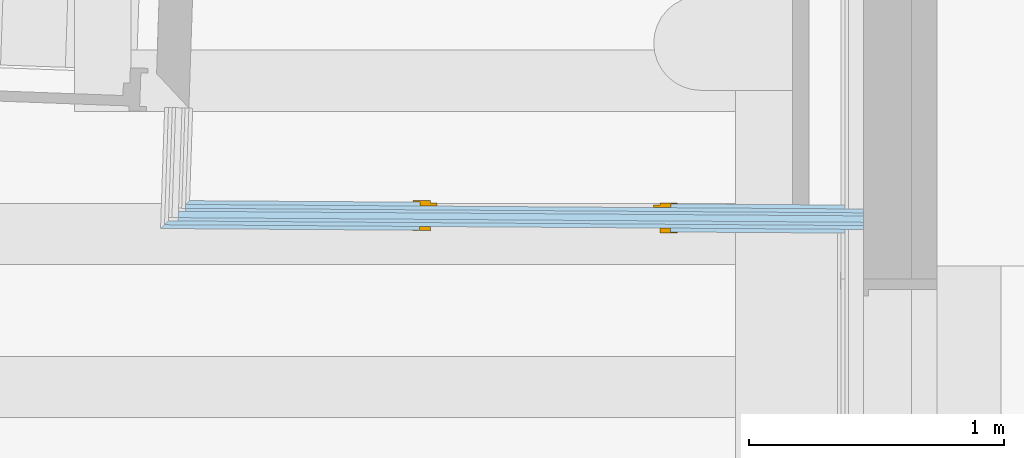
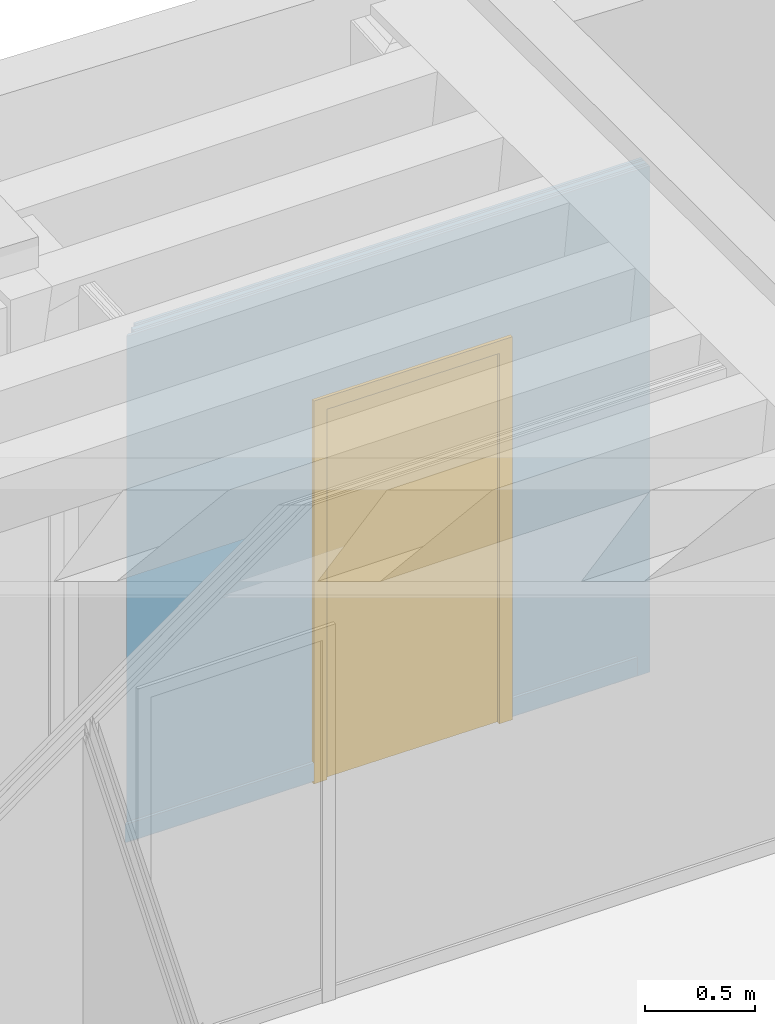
# One storey, part 26 of 108: 1 door, 1 opening, 1 element without a shape of its own, plus 7 elements that do not belong to this part.
"""IFC2X3 building model written with IfcOpenShell, lengths in metres."""

from ifc_helpers import new_model, entity, si_unit, converted_unit, derived_unit, money_unit, direction, frame, origin_with_axes, place, context, subcontext, project, spatial, polyline, outline, extrude, faceted_brep, material, type_object, element, fill, aggregate, save


model = new_model("IFC2X3")

# Units and contexts
model_context = context("Model", 3, precision=1e-05, world=origin_with_axes(), true_north=direction((0.0, 1.0)))
body_context = subcontext(model_context, "Body", "Model", "MODEL_VIEW", scale=1.0)
ifc_project = project(units=[si_unit("LENGTHUNIT", "METRE"), si_unit("AREAUNIT", "SQUARE_METRE"), si_unit("VOLUMEUNIT", "CUBIC_METRE"), si_unit("ABSORBEDDOSEUNIT", "GRAY"), si_unit("AMOUNTOFSUBSTANCEUNIT", "MOLE"), si_unit("DOSEEQUIVALENTUNIT", "SIEVERT"), si_unit("ELECTRICCAPACITANCEUNIT", "FARAD"), si_unit("ELECTRICCHARGEUNIT", "COULOMB"), si_unit("ELECTRICCONDUCTANCEUNIT", "SIEMENS"), si_unit("ELECTRICCURRENTUNIT", "AMPERE"), si_unit("ELECTRICRESISTANCEUNIT", "OHM"), si_unit("ELECTRICVOLTAGEUNIT", "VOLT"), si_unit("ENERGYUNIT", "JOULE"), si_unit("FORCEUNIT", "NEWTON"), si_unit("FREQUENCYUNIT", "HERTZ"), si_unit("ILLUMINANCEUNIT", "LUX"), si_unit("INDUCTANCEUNIT", "HENRY"), si_unit("LUMINOUSFLUXUNIT", "LUMEN"), si_unit("LUMINOUSINTENSITYUNIT", "CANDELA"), si_unit("MAGNETICFLUXDENSITYUNIT", "TESLA"), si_unit("MAGNETICFLUXUNIT", "WEBER"), si_unit("MASSUNIT", "GRAM"), converted_unit("PLANEANGLEUNIT", "degree", entity("IfcReal", 0.0174532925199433), si_unit("PLANEANGLEUNIT", "RADIAN"), dimensions=[0, 0, 0, 0, 0, 0, 0]), si_unit("POWERUNIT", "WATT"), si_unit("PRESSUREUNIT", "PASCAL"), si_unit("RADIOACTIVITYUNIT", "BECQUEREL"), si_unit("SOLIDANGLEUNIT", "STERADIAN"), si_unit("THERMODYNAMICTEMPERATUREUNIT", "KELVIN"), si_unit("TIMEUNIT", "SECOND"), derived_unit("ACCELERATIONUNIT", [(si_unit("LENGTHUNIT", "METRE"), 1), (si_unit("TIMEUNIT", "SECOND"), -2)]), derived_unit("ANGULARVELOCITYUNIT", [(converted_unit("PLANEANGLEUNIT", "degree", entity("IfcReal", 0.0174532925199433), si_unit("PLANEANGLEUNIT", "RADIAN"), dimensions=[0, 0, 0, 0, 0, 0, 0]), 1), (si_unit("TIMEUNIT", "SECOND"), -1)]), derived_unit("CURVATUREUNIT", [(converted_unit("PLANEANGLEUNIT", "degree", entity("IfcReal", 0.0174532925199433), si_unit("PLANEANGLEUNIT", "RADIAN"), dimensions=[0, 0, 0, 0, 0, 0, 0]), 1), (si_unit("LENGTHUNIT", "METRE"), -1)]), derived_unit("DYNAMICVISCOSITYUNIT", [(si_unit("PRESSUREUNIT", "PASCAL"), 1), (si_unit("TIMEUNIT", "SECOND"), 1)]), derived_unit("HEATFLUXDENSITYUNIT", [(si_unit("POWERUNIT", "WATT"), 1), (si_unit("LENGTHUNIT", "METRE"), -2)]), derived_unit("HEATINGVALUEUNIT", [(si_unit("ENERGYUNIT", "JOULE"), 1), (si_unit("MASSUNIT", "GRAM"), -1)]), derived_unit("INTEGERCOUNTRATEUNIT", [(si_unit("TIMEUNIT", "SECOND"), -1)]), derived_unit("IONCONCENTRATIONUNIT", [(si_unit("MASSUNIT", "GRAM"), 1), (si_unit("VOLUMEUNIT", "CUBIC_METRE"), -1)]), derived_unit("ISOTHERMALMOISTURECAPACITYUNIT", [(si_unit("VOLUMEUNIT", "CUBIC_METRE"), 1), (si_unit("MASSUNIT", "GRAM"), -1)]), derived_unit("KINEMATICVISCOSITYUNIT", [(si_unit("AREAUNIT", "SQUARE_METRE"), 1), (si_unit("TIMEUNIT", "SECOND"), -1)]), derived_unit("LINEARFORCEUNIT", [(si_unit("FORCEUNIT", "NEWTON"), 1), (si_unit("LENGTHUNIT", "METRE"), -1)]), derived_unit("LINEARMOMENTUNIT", [(si_unit("FORCEUNIT", "NEWTON"), 1), (si_unit("LENGTHUNIT", "METRE"), -1)]), derived_unit("LINEARSTIFFNESSUNIT", [(si_unit("FORCEUNIT", "NEWTON"), 1), (si_unit("LENGTHUNIT", "METRE"), -1)]), derived_unit("LINEARVELOCITYUNIT", [(si_unit("LENGTHUNIT", "METRE"), 1), (si_unit("TIMEUNIT", "SECOND"), -1)]), derived_unit("LUMINOUSINTENSITYDISTRIBUTIONUNIT", [(si_unit("LUMINOUSINTENSITYUNIT", "CANDELA"), 1), (si_unit("LUMINOUSFLUXUNIT", "LUMEN"), -1)]), derived_unit("MASSDENSITYUNIT", [(si_unit("MASSUNIT", "GRAM"), 1), (si_unit("VOLUMEUNIT", "CUBIC_METRE"), -1)]), derived_unit("MASSFLOWRATEUNIT", [(si_unit("MASSUNIT", "GRAM"), 1), (si_unit("TIMEUNIT", "SECOND"), -1)]), derived_unit("MASSPERLENGTHUNIT", [(si_unit("MASSUNIT", "GRAM"), 1), (si_unit("LENGTHUNIT", "METRE"), -1)]), derived_unit("MODULUSOFELASTICITYUNIT", [(si_unit("FORCEUNIT", "NEWTON"), 1), (si_unit("AREAUNIT", "SQUARE_METRE"), -1)]), derived_unit("MODULUSOFLINEARSUBGRADEREACTIONUNIT", [(si_unit("FORCEUNIT", "NEWTON"), 1), (si_unit("LENGTHUNIT", "METRE"), -2)]), derived_unit("MODULUSOFROTATIONALSUBGRADEREACTIONUNIT", [(si_unit("FORCEUNIT", "NEWTON"), 1), (si_unit("LENGTHUNIT", "METRE"), 1)]), derived_unit("MODULUSOFSUBGRADEREACTIONUNIT", [(si_unit("FORCEUNIT", "NEWTON"), 1), (si_unit("VOLUMEUNIT", "CUBIC_METRE"), -1)]), derived_unit("MOISTUREDIFFUSIVITYUNIT", [(si_unit("VOLUMEUNIT", "CUBIC_METRE"), 1), (si_unit("TIMEUNIT", "SECOND"), -1)]), derived_unit("MOLECULARWEIGHTUNIT", [(si_unit("MASSUNIT", "GRAM"), 1), (si_unit("AMOUNTOFSUBSTANCEUNIT", "MOLE"), -1)]), derived_unit("PLANARFORCEUNIT", [(si_unit("FORCEUNIT", "NEWTON"), 1), (si_unit("LENGTHUNIT", "METRE"), -2)]), derived_unit("ROTATIONALFREQUENCYUNIT", [(si_unit("TIMEUNIT", "SECOND"), -1)]), derived_unit("ROTATIONALMASSUNIT", [(si_unit("MASSUNIT", "GRAM"), 1), (si_unit("LENGTHUNIT", "METRE"), 2)]), derived_unit("ROTATIONALSTIFFNESSUNIT", [(si_unit("FORCEUNIT", "NEWTON"), 1), (si_unit("LENGTHUNIT", "METRE"), 1), (converted_unit("PLANEANGLEUNIT", "degree", entity("IfcReal", 0.0174532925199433), si_unit("PLANEANGLEUNIT", "RADIAN"), dimensions=[0, 0, 0, 0, 0, 0, 0]), -1)]), derived_unit("SECTIONAREAINTEGRALUNIT", [(si_unit("LENGTHUNIT", "METRE"), 5)]), derived_unit("SECTIONMODULUSUNIT", [(si_unit("LENGTHUNIT", "METRE"), 3)]), derived_unit("SHEARMODULUSUNIT", [(si_unit("FORCEUNIT", "NEWTON"), 1), (si_unit("AREAUNIT", "SQUARE_METRE"), -1)]), derived_unit("SOUNDPOWERUNIT", [(si_unit("ENERGYUNIT", "JOULE"), 1), (si_unit("TIMEUNIT", "SECOND"), -1)]), derived_unit("SPECIFICHEATCAPACITYUNIT", [(si_unit("FORCEUNIT", "NEWTON"), 1), (si_unit("MASSUNIT", "GRAM"), -1), (si_unit("THERMODYNAMICTEMPERATUREUNIT", "KELVIN"), -1)]), derived_unit("TEMPERATUREGRADIENTUNIT", [(si_unit("THERMODYNAMICTEMPERATUREUNIT", "KELVIN"), 1), (si_unit("LENGTHUNIT", "METRE"), -1)]), derived_unit("THERMALADMITTANCEUNIT", [(si_unit("POWERUNIT", "WATT"), 1), (si_unit("AREAUNIT", "SQUARE_METRE"), -1), (si_unit("THERMODYNAMICTEMPERATUREUNIT", "KELVIN"), -1)]), derived_unit("THERMALCONDUCTANCEUNIT", [(si_unit("POWERUNIT", "WATT"), 1), (si_unit("LENGTHUNIT", "METRE"), -1), (si_unit("THERMODYNAMICTEMPERATUREUNIT", "KELVIN"), -1)]), derived_unit("THERMALEXPANSIONCOEFFICIENTUNIT", [(si_unit("THERMODYNAMICTEMPERATUREUNIT", "KELVIN"), -1)]), derived_unit("THERMALRESISTANCEUNIT", [(si_unit("AREAUNIT", "SQUARE_METRE"), 1), (si_unit("POWERUNIT", "WATT"), -1)]), derived_unit("THERMALTRANSMITTANCEUNIT", [(si_unit("POWERUNIT", "WATT"), 1), (si_unit("AREAUNIT", "SQUARE_METRE"), -1), (si_unit("THERMODYNAMICTEMPERATUREUNIT", "KELVIN"), -1)]), derived_unit("TORQUEUNIT", [(si_unit("FORCEUNIT", "NEWTON"), 1), (si_unit("LENGTHUNIT", "METRE"), 1)]), derived_unit("VAPORPERMEABILITYUNIT", [(si_unit("MASSUNIT", "GRAM"), 1), (si_unit("TIMEUNIT", "SECOND"), -1)]), derived_unit("VOLUMETRICFLOWRATEUNIT", [(si_unit("VOLUMEUNIT", "CUBIC_METRE"), 1), (si_unit("TIMEUNIT", "SECOND"), -1)]), derived_unit("WARPINGCONSTANTUNIT", [(si_unit("LENGTHUNIT", "METRE"), 6)]), derived_unit("WARPINGMOMENTUNIT", [(si_unit("FORCEUNIT", "NEWTON"), 1), (si_unit("LENGTHUNIT", "METRE"), 2)]), money_unit("GBP")], contexts=[model_context])

# Site, building, storey, space
site_placement = place(None, origin_with_axes())
site = spatial("IfcSite", under=ifc_project, at=site_placement, Name="Site", CompositionType="ELEMENT")
building_placement = place(site_placement, origin_with_axes())
building = spatial("IfcBuilding", under=site, at=building_placement, Name="Building01", CompositionType="ELEMENT")
storey_placement = place(building_placement, origin_with_axes())
storey = spatial("IfcBuildingStorey", under=building, at=storey_placement, Name="GF", CompositionType="ELEMENT", Elevation=0.0)
space_placement = place(storey_placement, frame((8.552822, 20.936203, 0.217025), z_axis=(0.0, 0.0, 1.0), x_axis=(-0.99931258, 0.03707243, 0.0)))
space = spatial("IfcSpace", under=storey, at=space_placement, Name="01", CompositionType="ELEMENT", InteriorOrExteriorSpace="NOTDEFINED")

# Door
ifc_material_1 = material(Name="A_BSUK_Doors")
door_style = type_object("IfcDoorStyle", Name="A-Doors-SingleFlush", ConstructionType="USERDEFINED", OperationType="SINGLE_SWING_RIGHT", ParameterTakesPrecedence=False, Sizeable=False)
wall_placement = place(storey_placement, frame((9.154265, 19.280573, 0.148), z_axis=(0.0, 0.0, 1.0), x_axis=(-0.99997749, 0.00671026, 0.0)))
opening_placement = place(wall_placement, frame((0.755168, -0.042, 0.0), z_axis=(0.0, 0.0, 1.0), x_axis=(1.0, 0.0, 0.0)))
door_placement = place(opening_placement, frame((0.042237, 0.094895, 0.0), z_axis=(0.0, 0.0, 1.0), x_axis=(0.99999689, -0.00249226, 0.0)))
door = element("IfcDoor", 1, at=door_placement, inside=space, type_object=door_style, material=ifc_material_1, Name="0.11", ObjectType="A-Doors-SingleFlush", OverallHeight=2.12700000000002, OverallWidth=1.03800000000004, context=body_context, shape_type="Brep", body=[
    faceted_brep([(0.9, -0.099, 0.0), (0.969, -0.099, 0.0), (0.969, -0.099, 2.127), (-0.069, -0.099, 2.127), (-0.069, -0.099, 0.0), (0.0, -0.099, 0.0), (0.0, -0.099, 2.058), (0.9, -0.099, 2.058), (-0.069, -0.08, 0.0), (-0.069, -0.08, 2.127), (0.969, -0.08, 2.127), (0.969, -0.08, 0.0), (0.9, 0.019, 0.0), (0.969, 0.019, 0.0), (0.969, 0.0, 0.0), (0.942, 0.0, 0.0), (0.942, -0.08, 0.0), (0.9, 0.019, 2.058), (0.0, 0.019, 2.058), (0.0, 0.019, 0.0), (-0.069, 0.019, 0.0), (-0.069, 0.019, 2.127), (0.969, 0.019, 2.127), (0.969, 0.0, 2.127), (0.942, -0.08, 2.1), (0.942, 0.0, 2.1), (-0.042, -0.08, 2.1), (-0.042, 0.0, 2.1), (-0.042, -0.08, 0.0), (-0.042, 0.0, 0.0), (-0.069, 0.0, 2.127), (-0.069, 0.0, 0.0)], [[[0, 1, 2, 3, 4, 5, 6, 7]], [[8, 4, 3, 9]], [[10, 2, 1, 11]], [[9, 3, 2, 10]], [[12, 13, 14, 15, 16, 11, 1, 0]], [[7, 17, 12, 0]], [[6, 18, 17, 7]], [[18, 19, 20, 21, 22, 13, 12, 17]], [[5, 19, 18, 6]], [[13, 22, 23, 14]], [[24, 16, 15, 25]], [[26, 24, 25, 27]], [[11, 16, 24, 26, 28, 8, 9, 10]], [[27, 29, 28, 26]], [[25, 15, 14, 23, 30, 31, 29, 27]], [[5, 4, 8, 28, 29, 31, 20, 19]], [[30, 21, 20, 31]], [[23, 22, 21, 30]]]),
    faceted_brep([(0.0, -0.09, 2.058), (0.0, -0.04, 2.058), (0.0, -0.04, 0.0), (0.0, -0.09, 0.0), (0.875, -0.09, 0.0), (0.9, -0.09, 0.0), (0.9, -0.09, 2.058), (0.025, -0.09, 0.0), (0.025, -0.09, 2.033), (0.875, -0.09, 2.033), (0.875, -0.04, 0.0), (0.9, -0.04, 0.0), (0.9, -0.04, 2.058), (0.025, -0.04, 2.033), (0.025, -0.04, 0.0), (0.875, -0.04, 2.033)], [[[0, 1, 2, 3]], [[4, 5, 6, 0, 3, 7, 8, 9]], [[10, 11, 5, 4]], [[6, 12, 1, 0]], [[5, 11, 12, 6]], [[13, 14, 2, 1, 12, 11, 10, 15]], [[7, 14, 13, 8]], [[7, 3, 2, 14]], [[9, 15, 10, 4]], [[8, 13, 15, 9]]]),
    faceted_brep([(0.9, -0.04, 0.0), (0.9, 0.0, 0.0), (0.9, 0.0, 2.058), (0.9, -0.04, 2.058), (0.0, -0.04, 2.058), (0.0, 0.0, 2.058), (0.0, 0.0, 0.0), (0.0, -0.04, 0.0)], [[[0, 1, 2, 3]], [[4, 5, 6, 7]], [[7, 6, 1, 0]], [[3, 4, 7, 0]], [[3, 2, 5, 4]], [[1, 6, 5, 2]]]),
])

# Wall, opening
wall_type = type_object("IfcWallType", Name="SHE_A-Walls_Type05b_Partition_80mm", PredefinedType="NOTDEFINED")
wall = element("IfcWall", 2, at=wall_placement, inside=storey, type_object=wall_type, Name="5B", ObjectType="SHE_A-Walls_Type05b_Partition_80mm")
opening = element("IfcOpeningElement", 3, at=opening_placement, cuts=wall, Name="Opening", ObjectType="Opening", context=body_context, shape_type="Brep", body=[
    faceted_brep([(0.000237, 0.095, 0.015), (0.98424, 0.095, 0.015), (0.98424, 0.095, 0.0), (0.000237, 0.095, 0.0), (0.000199, 0.08, 2.1), (0.000199, 0.08, 0.0), (0.000152, 0.08, 0.0), (0.000152, 0.08, 2.1), (0.984123, 0.067, 0.0), (0.984123, 0.067, 2.1), (0.98417, 0.067, 2.1), (0.98417, 0.067, 0.0), (0.000105, 0.042, 2.1), (0.000105, 0.042, 0.0), (7.1e-05, 0.042, 0.0), (7.1e-05, 0.042, 2.1), (0.984044, 0.03, 0.0), (0.984044, 0.03, 2.1), (0.984078, 0.03, 2.1), (0.984078, 0.03, 0.0), (3.7e-05, 0.015, 0.115), (0.0, 0.0, 0.115), (0.984003, 0.0, 0.115), (0.98404, 0.015, 0.115), (0.0, 0.0, 0.015), (0.984003, 0.0, 0.015), (3.7e-05, 0.015, 0.015), (0.98404, 0.015, 0.015), (0.98404, 0.015, 0.0), (0.98404, 0.015, 2.1), (3.7e-05, 0.015, 2.1), (7.5e-05, 0.03, 2.1), (7.5e-05, 0.03, 0.0), (3.7e-05, 0.015, 0.0), (4.1e-05, 0.03, 0.0), (0.000167, 0.067, 0.0), (0.00012, 0.067, 0.0), (0.984202, 0.08, 0.0), (0.984155, 0.08, 0.0), (0.984108, 0.042, 0.0), (0.984074, 0.042, 0.0), (0.984074, 0.042, 2.1), (0.984108, 0.042, 2.1), (0.984155, 0.08, 2.1), (0.984202, 0.08, 2.1), (0.98424, 0.095, 2.1), (0.000237, 0.095, 2.1), (0.00012, 0.067, 2.1), (0.000167, 0.067, 2.1), (4.1e-05, 0.03, 2.1), (0.000237, 0.095, 0.115), (0.98424, 0.095, 0.115), (0.000274, 0.11, 0.115), (0.000274, 0.11, 0.015), (0.984277, 0.11, 0.015), (0.984277, 0.11, 0.115)], [[[0, 1, 2, 3]], [[4, 5, 6, 7]], [[8, 9, 10, 11]], [[12, 13, 14, 15]], [[16, 17, 18, 19]], [[20, 21, 22, 23]], [[21, 24, 25, 22]], [[24, 26, 27, 25]], [[22, 25, 27, 28, 19, 18, 29, 23]], [[20, 30, 31, 32, 33, 26, 24, 21]], [[23, 29, 30, 20]], [[27, 26, 33, 28]], [[33, 32, 34, 14, 13, 35, 36, 6, 5, 3, 2, 37, 38, 8, 11, 39, 40, 16, 19, 28]], [[29, 18, 17, 41, 42, 10, 9, 43, 44, 45, 46, 4, 7, 47, 48, 12, 15, 49, 31, 30]], [[32, 31, 49, 34]], [[49, 15, 14, 34]], [[16, 40, 41, 17]], [[41, 40, 39, 42]], [[12, 48, 35, 13]], [[39, 11, 10, 42]], [[35, 48, 47, 36]], [[47, 7, 6, 36]], [[8, 38, 43, 9]], [[43, 38, 37, 44]], [[50, 46, 45, 51]], [[4, 46, 50, 52, 53, 0, 3, 5]], [[37, 2, 1, 54, 55, 51, 45, 44]], [[52, 50, 51, 55]], [[53, 52, 55, 54]], [[0, 53, 54, 1]]]),
])

fill(opening, door)

# Building element part
ifc_material_2 = material(Name="A_BSUK_Walls_Timber")
placement = place(wall_placement, origin_with_axes())
building_element_part_1 = element("IfcBuildingElementPart", 4, at=placement, material=ifc_material_2, Name="1", context=body_context, shape_type="SweptSolid", body=[
    extrude(outline(polyline([(2.656967, -0.027), (0.072183, -0.027), (0.072283, -0.042), (2.640715, -0.042), (2.656967, -0.027)])), frame((0.0, 0.0, 0.015), z_axis=(0.0, 0.0, 1.0), x_axis=(1.0, 0.0, 0.0)), (0.0, 0.0, 1.0), 0.1),
])

ifc_material_3 = material(Name="A_BSUK_WallInternal_Finishes_Plasterboard")
building_element_part_2 = element("IfcBuildingElementPart", 5, at=placement, material=ifc_material_3, Name="2", context=body_context, shape_type="SweptSolid", body=[
    extrude(outline(polyline([(2.657371, -0.012), (8.1e-05, -0.012), (0.000181, -0.027), (2.656967, -0.027), (2.657371, -0.012)])), origin_with_axes(), (0.0, 0.0, 1.0), 2.812),
])

ifc_material_4 = material(Name="Air Cavity")
building_element_part_3 = element("IfcBuildingElementPart", 6, at=placement, material=ifc_material_4, Name="3", context=body_context, shape_type="SweptSolid", body=[
    extrude(outline(polyline([(2.657695, 0.0), (0.0, 0.0), (8.1e-05, -0.012), (2.657371, -0.012), (2.657695, 0.0)])), origin_with_axes(), (0.0, 0.0, 1.0), 2.812),
])

ifc_material_5 = material(Name="A_BSUK_Insulation")
building_element_part_4 = element("IfcBuildingElementPart", 7, at=placement, material=ifc_material_5, Name="4", context=body_context, shape_type="SweptSolid", body=[
    extrude(outline(polyline([(2.685378, 0.025), (-0.000168, 0.025), (0.0, 0.0), (2.684705, 0.0), (2.685378, 0.025)])), origin_with_axes(), (0.0, 0.0, 1.0), 2.812),
])

building_element_part_5 = element("IfcBuildingElementPart", 8, at=placement, material=ifc_material_4, Name="5", context=body_context, shape_type="SweptSolid", body=[
    extrude(outline(polyline([(2.685729, 0.038), (-0.000255, 0.038), (-0.000168, 0.025), (2.685378, 0.025), (2.685729, 0.038)])), origin_with_axes(), (0.0, 0.0, 1.0), 2.812),
])

building_element_part_6 = element("IfcBuildingElementPart", 9, at=placement, material=ifc_material_3, Name="6", context=body_context, shape_type="SweptSolid", body=[
    extrude(outline(polyline([(2.739153, 0.053), (-0.000356, 0.053), (-0.000255, 0.038), (2.723743, 0.038), (2.739153, 0.053)])), origin_with_axes(), (0.0, 0.0, 1.0), 2.812),
])

building_element_part_7 = element("IfcBuildingElementPart", 10, at=placement, material=ifc_material_2, Name="7", context=body_context, shape_type="SweptSolid", body=[
    extrude(outline(polyline([(2.754562, 0.068), (0.071545, 0.068), (0.071646, 0.053), (2.739153, 0.053), (2.754562, 0.068)])), frame((0.0, 0.0, 0.015), z_axis=(0.0, 0.0, 1.0), x_axis=(1.0, 0.0, 0.0)), (0.0, 0.0, 1.0), 0.1),
])

aggregate(wall, [building_element_part_1, building_element_part_2, building_element_part_3, building_element_part_4, building_element_part_5, building_element_part_6, building_element_part_7])

save(model, "model.ifc")
